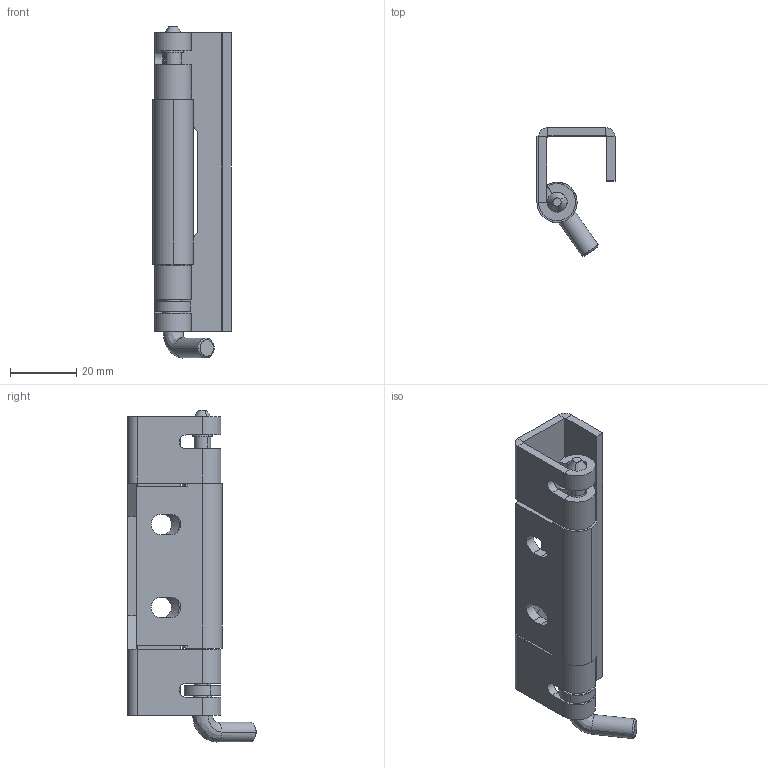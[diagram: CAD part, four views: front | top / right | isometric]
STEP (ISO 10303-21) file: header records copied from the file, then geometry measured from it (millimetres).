
FILE_DESCRIPTION (( 'STEP AP214' ), '1' );
FILE_NAME ('3.ST12B.001.STEP', '2011-10-31T07:26:11', ( 'Techniczny' ), ( 'RST Roztocze' ), 'SwSTEP 2.0', 'SolidWorks 2010', '' );
FILE_SCHEMA (( 'AUTOMOTIVE_DESIGN' ));
Length unit declared in the file: millimetre
Products named in the file (5): 3.ST12B.001.03; 3.ST12B.001.01_Default; 3.ST12B.001; 3B.ST12.02.00.00_Default; 3.ST12B.001.02
Assembly tree (4 placements, depth 2):
  3.ST12B.001
    3B.ST12.02.00.00_Default
    3.ST12B.001.02
    3.ST12B.001.01_Default
    3.ST12B.001.03
Bounding box: 23.5 x 38.63 x 100 mm (x, y, z)
Volume: 18793 mm3; surface area: 16399.1 mm2
Topology: 4 solids, 4 shells, 151 faces, 350 edges, 208 vertices
Faces by surface type: plane 67, cylinder 52, cone 12, torus 12, bspline 8
Entity records: 5287 total; most frequent: CARTESIAN_POINT 1612, DIRECTION 766, ORIENTED_EDGE 700, EDGE_CURVE 350, AXIS2_PLACEMENT_3D 284, VERTEX_POINT 208, VECTOR 198, LINE 198
